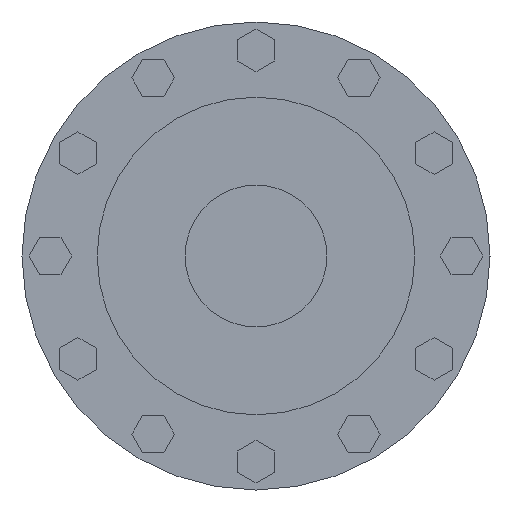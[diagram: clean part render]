
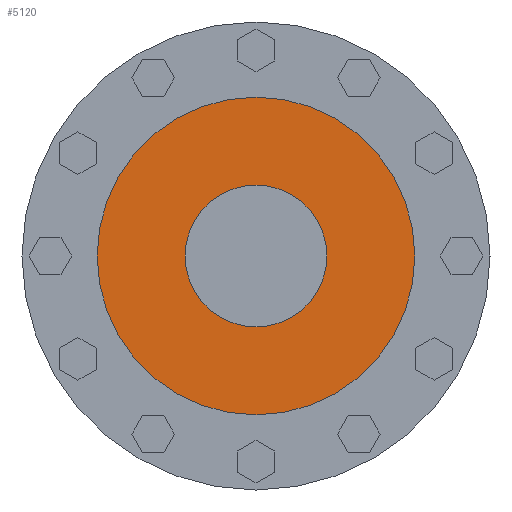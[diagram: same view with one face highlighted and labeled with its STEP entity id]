
A CAD part, left-side view. The second image highlights one B-rep face of the part: STEP entity #5120.
In plain terms, the highlighted planar face has unit normal (-1, 0, 0).
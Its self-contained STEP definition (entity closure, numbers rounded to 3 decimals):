
#6=CARTESIAN_POINT('',(-224.,0.,0.));
#7=DIRECTION('',(1.,0.,0.));
#8=DIRECTION('',(0.,1.,0.));
#9=AXIS2_PLACEMENT_3D('',#6,#7,#8);
#1097=CARTESIAN_POINT('',(-224.,0.,0.));
#1098=DIRECTION('',(-1.,0.,0.));
#1099=DIRECTION('',(0.,1.,0.));
#1100=AXIS2_PLACEMENT_3D('',#1097,#1098,#1099);
#1102=CARTESIAN_POINT('',(-224.,0.,0.));
#1103=DIRECTION('',(1.,0.,0.));
#1104=DIRECTION('',(0.,1.,0.));
#1105=AXIS2_PLACEMENT_3D('',#1102,#1103,#1104);
#1116=CARTESIAN_POINT('',(-224.,0.,0.));
#1117=DIRECTION('',(-1.,0.,0.));
#1118=DIRECTION('',(0.,1.,0.));
#1119=AXIS2_PLACEMENT_3D('',#1116,#1117,#1118);
#3200=CARTESIAN_POINT('',(-224.,56.,0.));
#3202=VERTEX_POINT('',#3200);
#3214=CARTESIAN_POINT('',(-224.,-56.,0.));
#3216=VERTEX_POINT('',#3214);
#3237=CARTESIAN_POINT('',(-224.,25.,0.));
#3238=VERTEX_POINT('',#3237);
#3239=CARTESIAN_POINT('',(-224.,-25.,0.));
#3240=VERTEX_POINT('',#3239);
#5106=CARTESIAN_POINT('',(-224.,0.,0.));
#5107=DIRECTION('',(1.,0.,0.));
#5108=DIRECTION('',(0.,-1.,0.));
#5109=AXIS2_PLACEMENT_3D('',#5106,#5107,#5108);
#5110=PLANE('',#5109);
#5111=ORIENTED_EDGE('',*,*,#5099,.F.);
#5112=ORIENTED_EDGE('',*,*,#5088,.T.);
#5113=EDGE_LOOP('',(#5111,#5112));
#5114=FACE_OUTER_BOUND('',#5113,.F.);
#5115=ORIENTED_EDGE('',*,*,#4230,.F.);
#5117=ORIENTED_EDGE('',*,*,#5116,.T.);
#5118=EDGE_LOOP('',(#5115,#5117));
#5119=FACE_BOUND('',#5118,.F.);
#5120=ADVANCED_FACE('',(#5114,#5119),#5110,.F.);
#10=CIRCLE('',#9,25.);
#1101=CIRCLE('',#1100,56.);
#1106=CIRCLE('',#1105,56.);
#1120=CIRCLE('',#1119,25.);
#4230=EDGE_CURVE('',#3238,#3240,#10,.T.);
#5088=EDGE_CURVE('',#3202,#3216,#1106,.T.);
#5099=EDGE_CURVE('',#3202,#3216,#1101,.T.);
#5116=EDGE_CURVE('',#3238,#3240,#1120,.T.);
